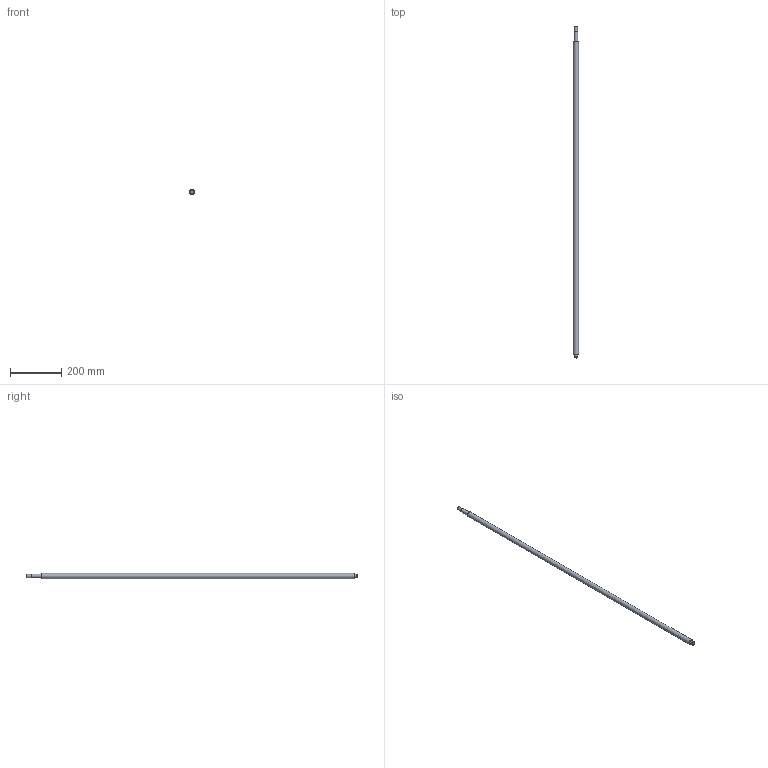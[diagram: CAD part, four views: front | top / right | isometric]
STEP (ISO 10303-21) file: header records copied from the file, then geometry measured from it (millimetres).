
FILE_DESCRIPTION(/* description */ (''),/* implementation_level */ '2;1');
FILE_NAME(/* name */ 'C:\Users\David\Desktop\stepFiles\Profilfuehrung\KUS2005x1300.stp',/* time_stamp */ '2018-06-24T15:12:11+02:00',/* author */ ('David'),/* organization */ (''),/* preprocessor_version */ 'ST-DEVELOPER v17',/* originating_system */ 'Autodesk Inventor 2019',/* authorisation */ '');
FILE_SCHEMA (('AUTOMOTIVE_DESIGN { 1 0 10303 214 3 1 1 }'));
Length unit declared in the file: millimetre
Products named in the file (1): SFU2005xvaiabel
Bounding box: 20 x 1300 x 20 mm (x, y, z)
Volume: 397072.4 mm3; surface area: 80978.7 mm2
Topology: 1 solids, 1 shells, 15 faces, 34 edges, 26 vertices
Faces by surface type: plane 7, cylinder 6, cone 2
Full cylindrical faces by diameter (mm): 12 x1, 14.3 x1, 15 x3, 20 x1
Entity records: 493 total; most frequent: DIRECTION 92, CARTESIAN_POINT 76, ORIENTED_EDGE 68, AXIS2_PLACEMENT_3D 42, EDGE_CURVE 34, CIRCLE 26, VERTEX_POINT 26, EDGE_LOOP 20
